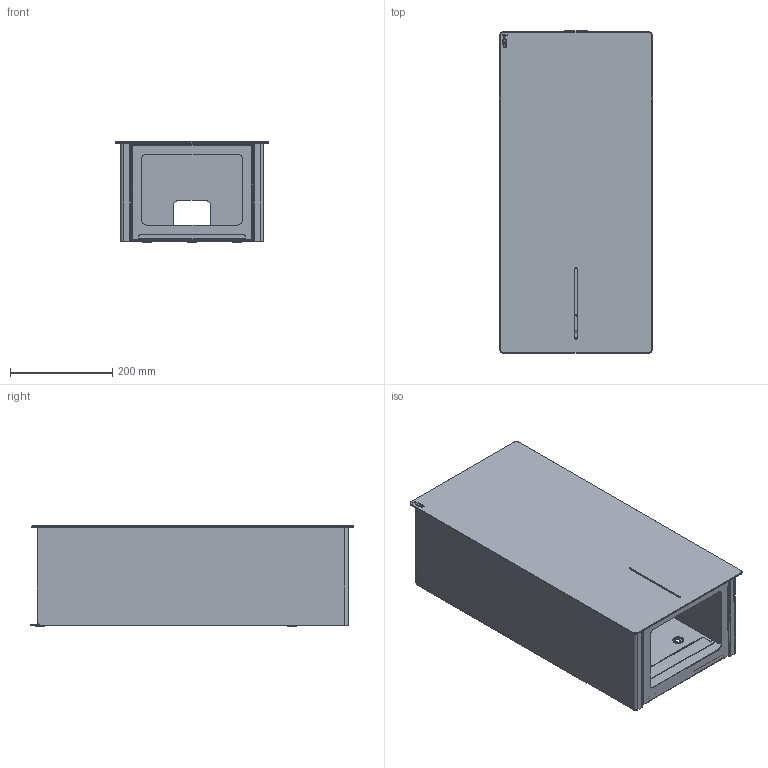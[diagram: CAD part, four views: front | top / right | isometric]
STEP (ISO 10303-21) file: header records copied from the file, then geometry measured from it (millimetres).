
FILE_DESCRIPTION(/* description */ (''),/* implementation_level */ '2;1');
FILE_NAME(/* name */ 'M:\Standardvarer\4120 DAN DRYER LOKI waste bin 30L\Tegninger\Public 3D files\4120 DAN DRYER LOKI waste bin - public.stp',/* time_stamp */ '2022-09-08T15:07:45+02:00',/* author */ ('Dan Dryer'),/* organization */ (''),/* preprocessor_version */ 'ST-DEVELOPER v16.1',/* originating_system */ 'Autodesk Inventor 2016',/* authorisation */ '');
FILE_SCHEMA (('AUTOMOTIVE_DESIGN { 1 0 10303 214 3 1 1 }'));
Length unit declared in the file: millimetre
Products named in the file (9): 67302-11; 67302-10; 67302-12; 67302-13; 67302-14; Viking logo i streg 24x9 - tykke streger til brug i Inventor; 67302; 67307; 4120 DAN DRYER LOKI waste bin
Assembly tree (9 placements, depth 3):
  4120 DAN DRYER LOKI waste bin
    67302
      67302-11
      67302-10
      67302-12
      67302-13
      67302-14  x2
      Viking logo i streg 24x9 - tykke streger til brug i Inventor
    67307
Bounding box: 300 x 632.5 x 196.6 mm (x, y, z)
Volume: 1343440.8 mm3; surface area: 1433839.3 mm2
Topology: 18 solids, 18 shells, 579 faces, 1421 edges, 882 vertices
Faces by surface type: plane 390, cylinder 159, torus 20, cone 6, bspline 4
Full cylindrical faces by diameter (mm): 5 x1, 6.2 x4
Entity records: 15887 total; most frequent: CARTESIAN_POINT 2807, DIRECTION 2712, ORIENTED_EDGE 2604, EDGE_CURVE 1302, LINE 978, VECTOR 978, AXIS2_PLACEMENT_3D 867, VERTEX_POINT 826
